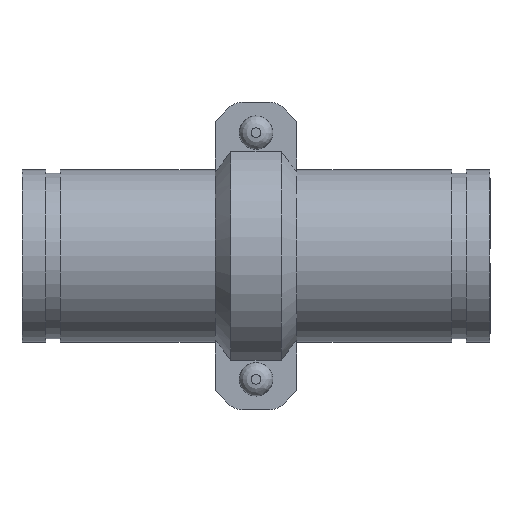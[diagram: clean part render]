
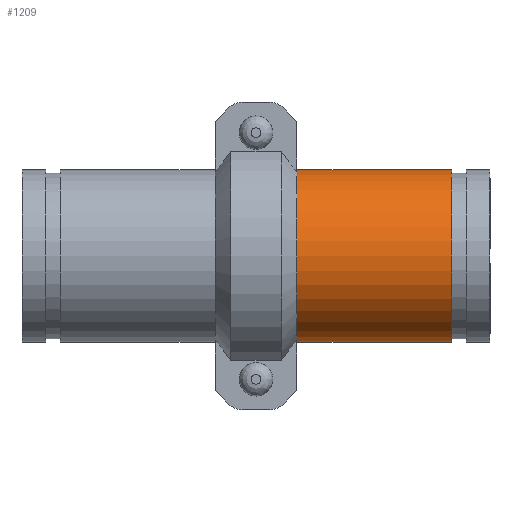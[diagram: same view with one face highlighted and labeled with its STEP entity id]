
A CAD part, front view. The second image highlights one B-rep face of the part: STEP entity #1209.
In plain terms, the highlighted cylindrical face has radius 57.15 mm (diameter 114.3 mm), a full revolution.
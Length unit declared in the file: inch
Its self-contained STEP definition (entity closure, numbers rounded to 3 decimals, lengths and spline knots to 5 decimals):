
#48=LINE('',#1911,#135);
#135=VECTOR('',#1552,2.25);
#222=CYLINDRICAL_SURFACE('',#1377,2.25);
#267=FACE_OUTER_BOUND('',#340,.T.);
#340=EDGE_LOOP('',(#797,#798,#799,#800,#801,#802));
#432=CIRCLE('',#1375,2.25);
#433=CIRCLE('',#1376,2.25);
#434=CIRCLE('',#1378,2.25);
#435=CIRCLE('',#1379,2.25);
#500=VERTEX_POINT('',#1902);
#501=VERTEX_POINT('',#1903);
#502=VERTEX_POINT('',#1907);
#503=VERTEX_POINT('',#1908);
#617=EDGE_CURVE('',#500,#501,#432,.T.);
#618=EDGE_CURVE('',#501,#500,#433,.T.);
#619=EDGE_CURVE('',#502,#503,#434,.T.);
#620=EDGE_CURVE('',#503,#502,#435,.T.);
#621=EDGE_CURVE('',#503,#501,#48,.T.);
#797=ORIENTED_EDGE('',*,*,#619,.F.);
#798=ORIENTED_EDGE('',*,*,#620,.F.);
#799=ORIENTED_EDGE('',*,*,#621,.T.);
#800=ORIENTED_EDGE('',*,*,#618,.T.);
#801=ORIENTED_EDGE('',*,*,#617,.T.);
#802=ORIENTED_EDGE('',*,*,#621,.F.);
#1209=ADVANCED_FACE('',(#267),#222,.T.);
#1375=AXIS2_PLACEMENT_3D('',#1904,#1542,#1543);
#1376=AXIS2_PLACEMENT_3D('',#1905,#1544,#1545);
#1377=AXIS2_PLACEMENT_3D('',#1906,#1546,#1547);
#1378=AXIS2_PLACEMENT_3D('',#1909,#1548,#1549);
#1379=AXIS2_PLACEMENT_3D('',#1910,#1550,#1551);
#1542=DIRECTION('center_axis',(-1.,0.,0.));
#1543=DIRECTION('ref_axis',(0.,0.,1.));
#1544=DIRECTION('center_axis',(-1.,0.,0.));
#1545=DIRECTION('ref_axis',(0.,0.,1.));
#1546=DIRECTION('center_axis',(-1.,0.,0.));
#1547=DIRECTION('ref_axis',(0.,1.,0.));
#1548=DIRECTION('center_axis',(-1.,0.,0.));
#1549=DIRECTION('ref_axis',(0.,0.,1.));
#1550=DIRECTION('center_axis',(-1.,0.,0.));
#1551=DIRECTION('ref_axis',(0.,0.,1.));
#1552=DIRECTION('',(1.,0.,0.));
#1902=CARTESIAN_POINT('',(2.0225,2.25,0.));
#1903=CARTESIAN_POINT('',(2.0225,-2.25,0.));
#1904=CARTESIAN_POINT('Origin',(2.0225,0.,0.));
#1905=CARTESIAN_POINT('Origin',(2.0225,0.,0.));
#1906=CARTESIAN_POINT('Origin',(0.,0.,
0.));
#1907=CARTESIAN_POINT('',(-2.0225,2.25,0.));
#1908=CARTESIAN_POINT('',(-2.0225,-2.25,0.));
#1909=CARTESIAN_POINT('Origin',(-2.0225,0.,0.));
#1910=CARTESIAN_POINT('Origin',(-2.0225,0.,0.));
#1911=CARTESIAN_POINT('',(0.,-2.25,0.));
